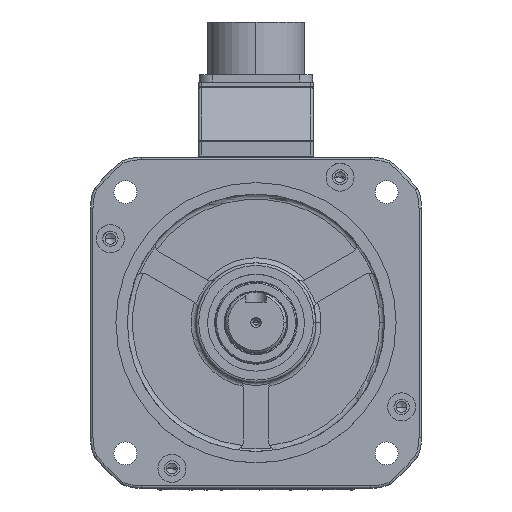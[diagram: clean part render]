
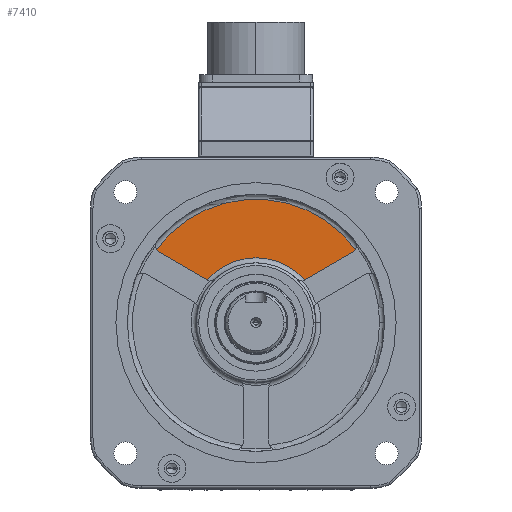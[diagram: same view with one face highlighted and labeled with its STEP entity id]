
A CAD part, top view. The second image highlights one B-rep face of the part: STEP entity #7410.
In plain terms, the highlighted planar face has unit normal (0, 0, 1).
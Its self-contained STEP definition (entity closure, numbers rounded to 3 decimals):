
#1297 = AXIS2_PLACEMENT_3D ( 'NONE', #55764, #30143, #55374 ) ;
#3485 = CIRCLE ( 'NONE', #20671, 3. ) ;
#3562 = EDGE_CURVE ( 'NONE', #13901, #42660, #44750, .T. ) ;
#5913 = DIRECTION ( 'NONE',  ( 1., 0., 0. ) ) ;
#6452 = DIRECTION ( 'NONE',  ( 1., 0., 0. ) ) ;
#6522 = CIRCLE ( 'NONE', #46133, 3. ) ;
#7410 = ADVANCED_FACE ( 'NONE', ( #48255 ), #29234, .T. ) ;
#7564 = ORIENTED_EDGE ( 'NONE', *, *, #45667, .F. ) ;
#9518 = VECTOR ( 'NONE', #57575, 1000. ) ;
#10998 = CARTESIAN_POINT ( 'NONE',  ( 0., 0., 0.5 ) ) ;
#12966 = EDGE_CURVE ( 'NONE', #74627, #68186, #32531, .T. ) ;
#13893 = VERTEX_POINT ( 'NONE', #23688 ) ;
#13901 = VERTEX_POINT ( 'NONE', #72134 ) ;
#15728 = CARTESIAN_POINT ( 'NONE',  ( -19.379, 16.962, 0.5 ) ) ;
#18076 = AXIS2_PLACEMENT_3D ( 'NONE', #74151, #79526, #54660 ) ;
#18225 = EDGE_CURVE ( 'NONE', #36272, #54708, #6522, .T. ) ;
#20671 = AXIS2_PLACEMENT_3D ( 'NONE', #78799, #65158, #79231 ) ;
#22243 = DIRECTION ( 'NONE',  ( 0., 0., 1. ) ) ;
#22619 = DIRECTION ( 'NONE',  ( 0., 0., 1. ) ) ;
#23688 = CARTESIAN_POINT ( 'NONE',  ( -38.049, 27.741, 0.5 ) ) ;
#25920 = ORIENTED_EDGE ( 'NONE', *, *, #3562, .T. ) ;
#28924 = CARTESIAN_POINT ( 'NONE',  ( 39.078, 28.726, 0.5 ) ) ;
#29234 = PLANE ( 'NONE',  #30057 ) ;
#30057 = AXIS2_PLACEMENT_3D ( 'NONE', #10998, #22619, #79722 ) ;
#30143 = DIRECTION ( 'NONE',  ( 0., 0., 1. ) ) ;
#32531 = CIRCLE ( 'NONE', #64273, 48.5 ) ;
#32885 = VECTOR ( 'NONE', #80110, 1000. ) ;
#35796 = ORIENTED_EDGE ( 'NONE', *, *, #42152, .T. ) ;
#35853 = AXIS2_PLACEMENT_3D ( 'NONE', #63140, #45291, #6452 ) ;
#36016 = VERTEX_POINT ( 'NONE', #46082 ) ;
#36272 = VERTEX_POINT ( 'NONE', #15728 ) ;
#36519 = CARTESIAN_POINT ( 'NONE',  ( 0., 0., 0.5 ) ) ;
#36644 = ORIENTED_EDGE ( 'NONE', *, *, #18225, .T. ) ;
#36684 = ORIENTED_EDGE ( 'NONE', *, *, #12966, .T. ) ;
#37726 = CARTESIAN_POINT ( 'NONE',  ( -2.5, 4.33, 0.5 ) ) ;
#38062 = EDGE_LOOP ( 'NONE', ( #36644, #35796, #61014, #25920, #74251, #36684, #81175, #7564 ) ) ;
#41573 = EDGE_CURVE ( 'NONE', #36016, #13901, #3485, .T. ) ;
#42152 = EDGE_CURVE ( 'NONE', #54708, #36016, #56400, .T. ) ;
#42660 = VERTEX_POINT ( 'NONE', #63257 ) ;
#42823 = CARTESIAN_POINT ( 'NONE',  ( 2.5, 4.33, 0.5 ) ) ;
#44750 = LINE ( 'NONE', #37726, #9518 ) ;
#45291 = DIRECTION ( 'NONE',  ( 0., 0., 1. ) ) ;
#45667 = EDGE_CURVE ( 'NONE', #36272, #13893, #73913, .T. ) ;
#46082 = CARTESIAN_POINT ( 'NONE',  ( 19.147, 16.841, 0.5 ) ) ;
#46133 = AXIS2_PLACEMENT_3D ( 'NONE', #77006, #22243, #53670 ) ;
#46480 = EDGE_CURVE ( 'NONE', #42660, #74627, #64731, .T. ) ;
#48255 = FACE_OUTER_BOUND ( 'NONE', #38062, .T. ) ;
#51749 = CIRCLE ( 'NONE', #35853, 3. ) ;
#53670 = DIRECTION ( 'NONE',  ( 1., 0., 0. ) ) ;
#54660 = DIRECTION ( 'NONE',  ( 1., 0., 0. ) ) ;
#54708 = VERTEX_POINT ( 'NONE', #61962 ) ;
#55374 = DIRECTION ( 'NONE',  ( 1., 0., 0. ) ) ;
#55764 = CARTESIAN_POINT ( 'NONE',  ( 36.549, 30.339, 0.5 ) ) ;
#56400 = CIRCLE ( 'NONE', #18076, 25.5 ) ;
#57575 = DIRECTION ( 'NONE',  ( 0.866, 0.5, 0. ) ) ;
#61014 = ORIENTED_EDGE ( 'NONE', *, *, #41573, .T. ) ;
#61962 = CARTESIAN_POINT ( 'NONE',  ( -19.147, 16.841, 0.5 ) ) ;
#63140 = CARTESIAN_POINT ( 'NONE',  ( -36.549, 30.339, 0.5 ) ) ;
#63257 = CARTESIAN_POINT ( 'NONE',  ( 38.049, 27.741, 0.5 ) ) ;
#64273 = AXIS2_PLACEMENT_3D ( 'NONE', #36519, #73817, #5913 ) ;
#64731 = CIRCLE ( 'NONE', #1297, 3. ) ;
#65158 = DIRECTION ( 'NONE',  ( 0., 0., 1. ) ) ;
#68186 = VERTEX_POINT ( 'NONE', #72514 ) ;
#72134 = CARTESIAN_POINT ( 'NONE',  ( 19.379, 16.962, 0.5 ) ) ;
#72514 = CARTESIAN_POINT ( 'NONE',  ( -39.078, 28.726, 0.5 ) ) ;
#73817 = DIRECTION ( 'NONE',  ( 0., 0., 1. ) ) ;
#73913 = LINE ( 'NONE', #42823, #32885 ) ;
#74145 = EDGE_CURVE ( 'NONE', #68186, #13893, #51749, .T. ) ;
#74151 = CARTESIAN_POINT ( 'NONE',  ( 0., 0., 0.5 ) ) ;
#74251 = ORIENTED_EDGE ( 'NONE', *, *, #46480, .T. ) ;
#74627 = VERTEX_POINT ( 'NONE', #28924 ) ;
#77006 = CARTESIAN_POINT ( 'NONE',  ( -17.879, 19.56, 0.5 ) ) ;
#78799 = CARTESIAN_POINT ( 'NONE',  ( 17.879, 19.56, 0.5 ) ) ;
#79231 = DIRECTION ( 'NONE',  ( 1., 0., 0. ) ) ;
#79526 = DIRECTION ( 'NONE',  ( 0., 0., -1. ) ) ;
#79722 = DIRECTION ( 'NONE',  ( 1., 0., 0. ) ) ;
#80110 = DIRECTION ( 'NONE',  ( -0.866, 0.5, 0. ) ) ;
#81175 = ORIENTED_EDGE ( 'NONE', *, *, #74145, .T. ) ;
